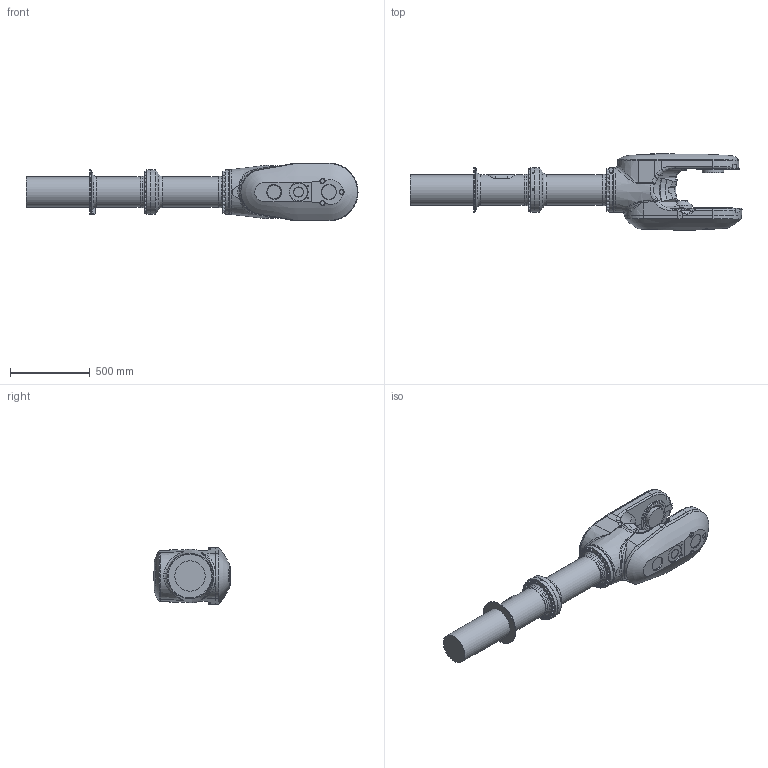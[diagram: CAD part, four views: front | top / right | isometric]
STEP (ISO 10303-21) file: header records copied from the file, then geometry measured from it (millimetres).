
FILE_DESCRIPTION (( 'STEP AP214' ), '1' );
FILE_NAME ('IRB77X0_All-330_OC_00_LINK04_CAD.step', '2026-01-27T14:53:32', ( '' ), ( '' ), 'SwSTEP 2.0', 'SolidWorks 2024', '' );
FILE_SCHEMA (( 'AUTOMOTIVE_DESIGN' ));
Length unit declared in the file: millimetre
Products named in the file (1): IRB77X0_All-330_OC_00_LINK04_CAD
Bounding box: 2076.38 x 475.5 x 362.3 mm (x, y, z)
Volume: 109478120.3 mm3; surface area: 2305004.7 mm2
Topology: 1 solids, 1 shells, 700 faces, 1735 edges, 1128 vertices
Faces by surface type: plane 291, cylinder 146, bspline 142, cone 113, torus 8
Full cylindrical faces by diameter (mm): 4.8 x2, 6.8 x6, 8.3 x2, 10.5 x1, 12 x3, 17.9 x2, 18 x2, 18.27 x50, 24 x1, 27 x1, 28 x4, 90 x1, 134 x1, 140 x1, 189.5 x1, 190 x3, 192 x2, 195 x2, 280 x4
Entity records: 38850 total; most frequent: CARTESIAN_POINT 17216, ORIENTED_EDGE 2966, DIRECTION 2448, EDGE_CURVE 1483, VERTEX_POINT 1027, AXIS2_PLACEMENT_3D 963, EDGE_LOOP 942, FACE_OUTER_BOUND 797
